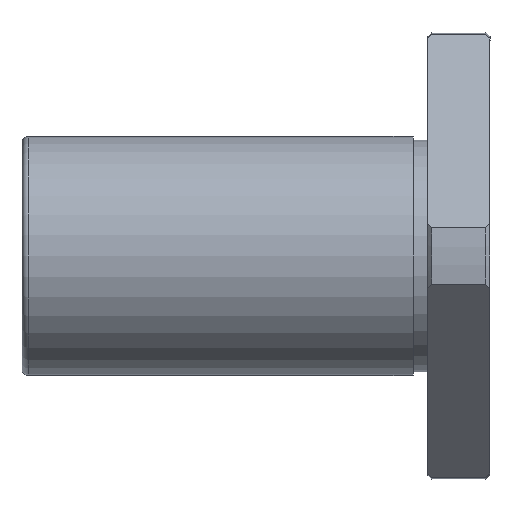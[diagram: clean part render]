
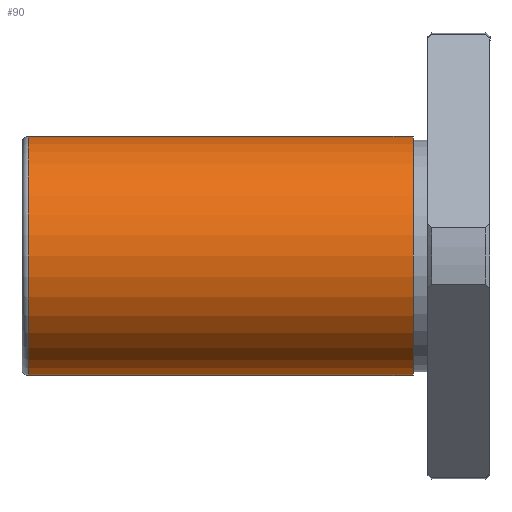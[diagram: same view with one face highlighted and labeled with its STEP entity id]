
A CAD part, front view. The second image highlights one B-rep face of the part: STEP entity #90.
In plain terms, the highlighted cylindrical face has radius 11.5 mm (diameter 23 mm), a full revolution.
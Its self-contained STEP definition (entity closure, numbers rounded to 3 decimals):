
#90=ADVANCED_FACE('',(#152,#153),#154,.T.);
#152=FACE_OUTER_BOUND('',#252,.T.);
#153=FACE_OUTER_BOUND('',#253,.T.);
#154=CYLINDRICAL_SURFACE('',#254,11.5);
#252=EDGE_LOOP('',(#424));
#253=EDGE_LOOP('',(#425));
#254=AXIS2_PLACEMENT_3D('',#426,#427,#428);
#424=ORIENTED_EDGE('',*,*,#611,.T.);
#425=ORIENTED_EDGE('',*,*,#612,.T.);
#426=CARTESIAN_POINT('',(-19.4,0.0,0.));
#427=DIRECTION('',(-1.0,-0.0,0.));
#428=DIRECTION('',(0.0,1.0,0.0));
#611=EDGE_CURVE('',#721,#721,#722,.F.);
#612=EDGE_CURVE('',#723,#723,#724,.T.);
#721=VERTEX_POINT('',#975);
#722=CIRCLE('',#976,11.5);
#723=VERTEX_POINT('',#977);
#724=CIRCLE('',#978,11.5);
#975=CARTESIAN_POINT('',(-44.4,0.,11.5));
#976=AXIS2_PLACEMENT_3D('',#1131,#1132,#1133);
#977=CARTESIAN_POINT('',(-7.4,11.5,0.));
#978=AXIS2_PLACEMENT_3D('',#1134,#1135,#1136);
#1131=CARTESIAN_POINT('',(-44.4,0.,0.));
#1132=DIRECTION('',(-1.0,0.0,0.));
#1133=DIRECTION('',(0.,0.0,1.0));
#1134=CARTESIAN_POINT('',(-7.4,0.0,0.));
#1135=DIRECTION('',(-1.0,0.0,0.));
#1136=DIRECTION('',(0.0,1.0,0.0));
